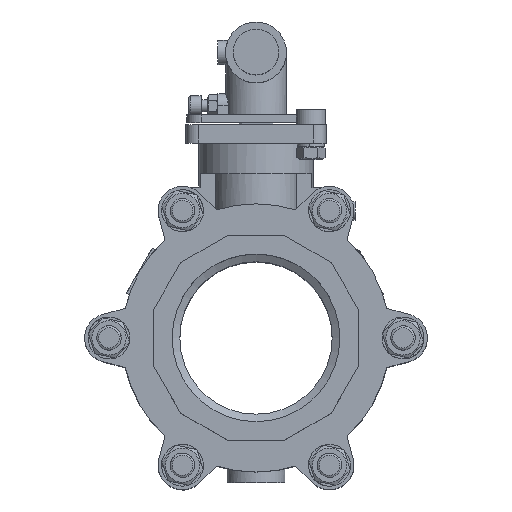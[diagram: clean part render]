
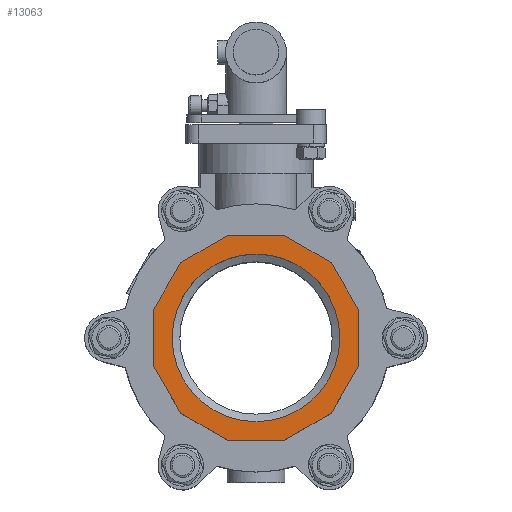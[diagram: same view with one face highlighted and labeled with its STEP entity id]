
A CAD part, top view. The second image highlights one B-rep face of the part: STEP entity #13063.
In plain terms, the highlighted planar face has unit normal (0, 0, 1).
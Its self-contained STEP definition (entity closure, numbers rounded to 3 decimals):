
#225=FACE_BOUND('',#1993,.T.);
#666=PLANE('',#14020);
#1237=FACE_OUTER_BOUND('',#1992,.T.);
#1992=EDGE_LOOP('',(#10064,#10065,#10066,#10067,#10068,#10069,#10070,#10071,
#10072,#10073,#10074,#10075));
#1993=EDGE_LOOP('',(#10076,#10077));
#2785=CIRCLE('',#14006,55.036);
#2786=CIRCLE('',#14007,55.036);
#3582=LINE('',#20935,#4669);
#3585=LINE('',#20941,#4672);
#3588=LINE('',#20947,#4675);
#3591=LINE('',#20953,#4678);
#3594=LINE('',#20959,#4681);
#3597=LINE('',#20965,#4684);
#3600=LINE('',#20971,#4687);
#3603=LINE('',#20977,#4690);
#3606=LINE('',#20983,#4693);
#3609=LINE('',#20989,#4696);
#3612=LINE('',#20995,#4699);
#3615=LINE('',#20999,#4702);
#4669=VECTOR('',#16229,10.);
#4672=VECTOR('',#16234,10.);
#4675=VECTOR('',#16239,10.);
#4678=VECTOR('',#16244,10.);
#4681=VECTOR('',#16249,10.);
#4684=VECTOR('',#16254,10.);
#4687=VECTOR('',#16259,10.);
#4690=VECTOR('',#16264,10.);
#4693=VECTOR('',#16269,10.);
#4696=VECTOR('',#16274,10.);
#4699=VECTOR('',#16279,10.);
#4702=VECTOR('',#16284,10.);
#5888=VERTEX_POINT('',#20923);
#5889=VERTEX_POINT('',#20925);
#5892=VERTEX_POINT('',#20932);
#5893=VERTEX_POINT('',#20934);
#5895=VERTEX_POINT('',#20940);
#5897=VERTEX_POINT('',#20946);
#5899=VERTEX_POINT('',#20952);
#5901=VERTEX_POINT('',#20958);
#5903=VERTEX_POINT('',#20964);
#5905=VERTEX_POINT('',#20970);
#5907=VERTEX_POINT('',#20976);
#5909=VERTEX_POINT('',#20982);
#5911=VERTEX_POINT('',#20988);
#5913=VERTEX_POINT('',#20994);
#7421=EDGE_CURVE('',#5889,#5888,#2785,.T.);
#7422=EDGE_CURVE('',#5888,#5889,#2786,.T.);
#7425=EDGE_CURVE('',#5893,#5892,#3582,.T.);
#7428=EDGE_CURVE('',#5895,#5893,#3585,.T.);
#7431=EDGE_CURVE('',#5897,#5895,#3588,.T.);
#7434=EDGE_CURVE('',#5899,#5897,#3591,.T.);
#7437=EDGE_CURVE('',#5901,#5899,#3594,.T.);
#7440=EDGE_CURVE('',#5903,#5901,#3597,.T.);
#7443=EDGE_CURVE('',#5905,#5903,#3600,.T.);
#7446=EDGE_CURVE('',#5907,#5905,#3603,.T.);
#7449=EDGE_CURVE('',#5909,#5907,#3606,.T.);
#7452=EDGE_CURVE('',#5911,#5909,#3609,.T.);
#7455=EDGE_CURVE('',#5913,#5911,#3612,.T.);
#7458=EDGE_CURVE('',#5892,#5913,#3615,.T.);
#10064=ORIENTED_EDGE('',*,*,#7458,.T.);
#10065=ORIENTED_EDGE('',*,*,#7455,.T.);
#10066=ORIENTED_EDGE('',*,*,#7452,.T.);
#10067=ORIENTED_EDGE('',*,*,#7449,.T.);
#10068=ORIENTED_EDGE('',*,*,#7446,.T.);
#10069=ORIENTED_EDGE('',*,*,#7443,.T.);
#10070=ORIENTED_EDGE('',*,*,#7440,.T.);
#10071=ORIENTED_EDGE('',*,*,#7437,.T.);
#10072=ORIENTED_EDGE('',*,*,#7434,.T.);
#10073=ORIENTED_EDGE('',*,*,#7431,.T.);
#10074=ORIENTED_EDGE('',*,*,#7428,.T.);
#10075=ORIENTED_EDGE('',*,*,#7425,.T.);
#10076=ORIENTED_EDGE('',*,*,#7421,.T.);
#10077=ORIENTED_EDGE('',*,*,#7422,.T.);
#13063=ADVANCED_FACE('',(#1237,#225),#666,.T.);
#14006=AXIS2_PLACEMENT_3D('',#20926,#16221,#16222);
#14007=AXIS2_PLACEMENT_3D('',#20927,#16223,#16224);
#14020=AXIS2_PLACEMENT_3D('',#21000,#16285,#16286);
#16221=DIRECTION('center_axis',(0.,0.,
-1.));
#16222=DIRECTION('ref_axis',(0.866,0.5,0.));
#16223=DIRECTION('center_axis',(0.,0.,
-1.));
#16224=DIRECTION('ref_axis',(0.866,0.5,0.));
#16229=DIRECTION('',(-0.5,-0.866,0.));
#16234=DIRECTION('',(-0.866,-0.5,0.));
#16239=DIRECTION('',(-1.,0.,0.));
#16244=DIRECTION('',(-0.866,0.5,0.));
#16249=DIRECTION('',(-0.5,0.866,0.));
#16254=DIRECTION('',(0.,1.,0.));
#16259=DIRECTION('',(0.5,0.866,0.));
#16264=DIRECTION('',(0.866,0.5,0.));
#16269=DIRECTION('',(1.,0.,0.));
#16274=DIRECTION('',(0.866,-0.5,0.));
#16279=DIRECTION('',(0.5,-0.866,0.));
#16284=DIRECTION('',(0.,-1.,0.));
#16285=DIRECTION('center_axis',(0.,0.,
1.));
#16286=DIRECTION('ref_axis',(0.866,0.5,0.));
#20923=CARTESIAN_POINT('',(-164.296,-32.411,120.));
#20925=CARTESIAN_POINT('',(-68.97,22.625,120.));
#20926=CARTESIAN_POINT('Origin',(-116.633,-4.893,120.));
#20927=CARTESIAN_POINT('Origin',(-116.633,-4.893,120.));
#20932=CARTESIAN_POINT('',(-184.133,13.193,120.));
#20934=CARTESIAN_POINT('',(-166.046,44.52,120.));
#20935=CARTESIAN_POINT('',(-184.133,13.193,120.));
#20940=CARTESIAN_POINT('',(-134.72,62.607,120.));
#20941=CARTESIAN_POINT('',(-166.046,44.52,120.));
#20946=CARTESIAN_POINT('',(-98.546,62.607,120.));
#20947=CARTESIAN_POINT('',(-134.72,62.607,120.));
#20952=CARTESIAN_POINT('',(-67.22,44.52,120.));
#20953=CARTESIAN_POINT('',(-98.546,62.607,120.));
#20958=CARTESIAN_POINT('',(-49.133,13.193,120.));
#20959=CARTESIAN_POINT('',(-67.22,44.52,120.));
#20964=CARTESIAN_POINT('',(-49.133,-22.98,120.));
#20965=CARTESIAN_POINT('',(-49.133,13.193,120.));
#20970=CARTESIAN_POINT('',(-67.22,-54.307,120.));
#20971=CARTESIAN_POINT('',(-49.133,-22.98,120.));
#20976=CARTESIAN_POINT('',(-98.546,-72.393,120.));
#20977=CARTESIAN_POINT('',(-67.22,-54.307,120.));
#20982=CARTESIAN_POINT('',(-134.72,-72.393,120.));
#20983=CARTESIAN_POINT('',(-98.546,-72.393,120.));
#20988=CARTESIAN_POINT('',(-166.046,-54.307,120.));
#20989=CARTESIAN_POINT('',(-134.72,-72.393,120.));
#20994=CARTESIAN_POINT('',(-184.133,-22.98,120.));
#20995=CARTESIAN_POINT('',(-166.046,-54.307,120.));
#20999=CARTESIAN_POINT('',(-184.133,-22.98,120.));
#21000=CARTESIAN_POINT('Origin',(-116.633,-4.893,120.));
